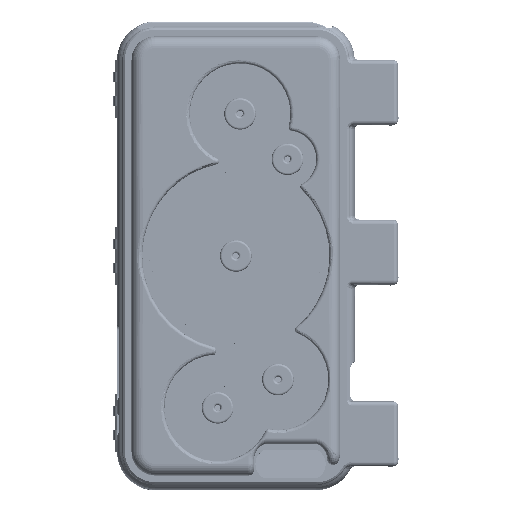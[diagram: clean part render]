
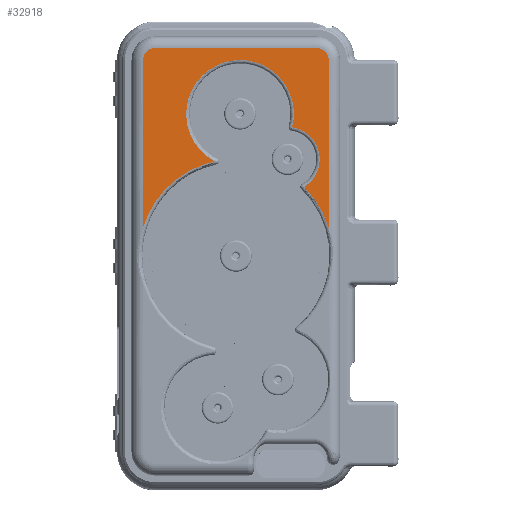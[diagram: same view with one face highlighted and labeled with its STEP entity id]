
A CAD part, front view. The second image highlights one B-rep face of the part: STEP entity #32918.
In plain terms, the highlighted planar face has unit normal (0, -1, 0) as drawn and (0, 1, 0) by its records, which use the part's own axes.
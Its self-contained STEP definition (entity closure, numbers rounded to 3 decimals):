
#1150=PLANE('',#35378);
#2055=FACE_OUTER_BOUND('',#4004,.T.);
#4004=EDGE_LOOP('',(#24214,#24215,#24216,#24217,#24218,#24219,#24220,#24221,
#24222));
#6063=CIRCLE('',#35350,33.7);
#6066=CIRCLE('',#35354,18.7);
#6069=CIRCLE('',#35360,11.2);
#6073=CIRCLE('',#35367,33.7);
#6080=CIRCLE('',#35379,4.25);
#6081=CIRCLE('',#35380,4.25);
#8068=LINE('',#55017,#10178);
#8096=LINE('',#55656,#10206);
#8097=LINE('',#55663,#10207);
#10178=VECTOR('',#40662,58.221);
#10206=VECTOR('',#40866,58.221);
#10207=VECTOR('',#40875,56.);
#13519=VERTEX_POINT('',#55014);
#13520=VERTEX_POINT('',#55016);
#13563=VERTEX_POINT('',#55316);
#13564=VERTEX_POINT('',#55344);
#13566=VERTEX_POINT('',#55350);
#13569=VERTEX_POINT('',#55417);
#13574=VERTEX_POINT('',#55655);
#13575=VERTEX_POINT('',#55660);
#13576=VERTEX_POINT('',#55662);
#17436=EDGE_CURVE('',#13519,#13520,#8068,.T.);
#17507=EDGE_CURVE('',#13563,#13564,#6063,.T.);
#17511=EDGE_CURVE('',#13566,#13563,#6066,.T.);
#17518=EDGE_CURVE('',#13569,#13566,#6069,.T.);
#17525=EDGE_CURVE('',#13520,#13569,#6073,.T.);
#17534=EDGE_CURVE('',#13564,#13574,#8096,.T.);
#17537=EDGE_CURVE('',#13575,#13519,#6080,.T.);
#17538=EDGE_CURVE('',#13576,#13575,#8097,.T.);
#17539=EDGE_CURVE('',#13574,#13576,#6081,.T.);
#24214=ORIENTED_EDGE('',*,*,#17507,.F.);
#24215=ORIENTED_EDGE('',*,*,#17511,.F.);
#24216=ORIENTED_EDGE('',*,*,#17518,.F.);
#24217=ORIENTED_EDGE('',*,*,#17525,.F.);
#24218=ORIENTED_EDGE('',*,*,#17436,.F.);
#24219=ORIENTED_EDGE('',*,*,#17537,.F.);
#24220=ORIENTED_EDGE('',*,*,#17538,.F.);
#24221=ORIENTED_EDGE('',*,*,#17539,.F.);
#24222=ORIENTED_EDGE('',*,*,#17534,.F.);
#32918=ADVANCED_FACE('',(#2055),#1150,.T.);
#35350=AXIS2_PLACEMENT_3D('',#55345,#40809,#40810);
#35354=AXIS2_PLACEMENT_3D('',#55359,#40817,#40818);
#35360=AXIS2_PLACEMENT_3D('',#55426,#40831,#40832);
#35367=AXIS2_PLACEMENT_3D('',#55485,#40847,#40848);
#35378=AXIS2_PLACEMENT_3D('',#55659,#40871,#40872);
#35379=AXIS2_PLACEMENT_3D('',#55661,#40873,#40874);
#35380=AXIS2_PLACEMENT_3D('',#55664,#40876,#40877);
#40662=DIRECTION('',(-1.,0.,0.));
#40809=DIRECTION('center_axis',(0.,1.,0.));
#40810=DIRECTION('ref_axis',(0.72,0.,-0.694));
#40817=DIRECTION('center_axis',(0.,1.,0.));
#40818=DIRECTION('ref_axis',(0.88,0.,-0.475));
#40831=DIRECTION('center_axis',(0.,1.,0.));
#40832=DIRECTION('ref_axis',(0.185,0.,0.983));
#40847=DIRECTION('center_axis',(0.,1.,0.));
#40848=DIRECTION('ref_axis',(0.465,0.,0.885));
#40866=DIRECTION('',(1.,0.,0.));
#40871=DIRECTION('center_axis',(0.,1.,0.));
#40872=DIRECTION('ref_axis',(0.,0.,1.));
#40873=DIRECTION('center_axis',(0.,-1.,0.));
#40874=DIRECTION('ref_axis',(0.707,0.,0.707));
#40875=DIRECTION('',(0.,0.,1.));
#40876=DIRECTION('center_axis',(0.,-1.,0.));
#40877=DIRECTION('ref_axis',(0.707,0.,-0.707));
#55014=CARTESIAN_POINT('',(68.,4.,32.25));
#55016=CARTESIAN_POINT('',(9.779,4.,32.25));
#55017=CARTESIAN_POINT('',(-38.125,4.,32.25));
#55316=CARTESIAN_POINT('',(32.88,4.,-7.39));
#55344=CARTESIAN_POINT('',(9.779,4.,-32.25));
#55345=CARTESIAN_POINT('Origin',(0.,4.,0.));
#55350=CARTESIAN_POINT('',(44.662,4.,19.554));
#55359=CARTESIAN_POINT('Origin',(49.357,4.,1.453));
#55417=CARTESIAN_POINT('',(23.979,4.,23.679));
#55426=CARTESIAN_POINT('Origin',(33.583,4.,17.916));
#55485=CARTESIAN_POINT('Origin',(0.,4.,0.));
#55655=CARTESIAN_POINT('',(68.,4.,-32.25));
#55656=CARTESIAN_POINT('',(38.125,4.,-32.25));
#55659=CARTESIAN_POINT('Origin',(0.,4.,0.));
#55660=CARTESIAN_POINT('',(72.25,4.,28.));
#55661=CARTESIAN_POINT('Origin',(68.,4.,28.));
#55662=CARTESIAN_POINT('',(72.25,4.,-28.));
#55663=CARTESIAN_POINT('',(72.25,4.,18.125));
#55664=CARTESIAN_POINT('Origin',(68.,4.,-28.));
